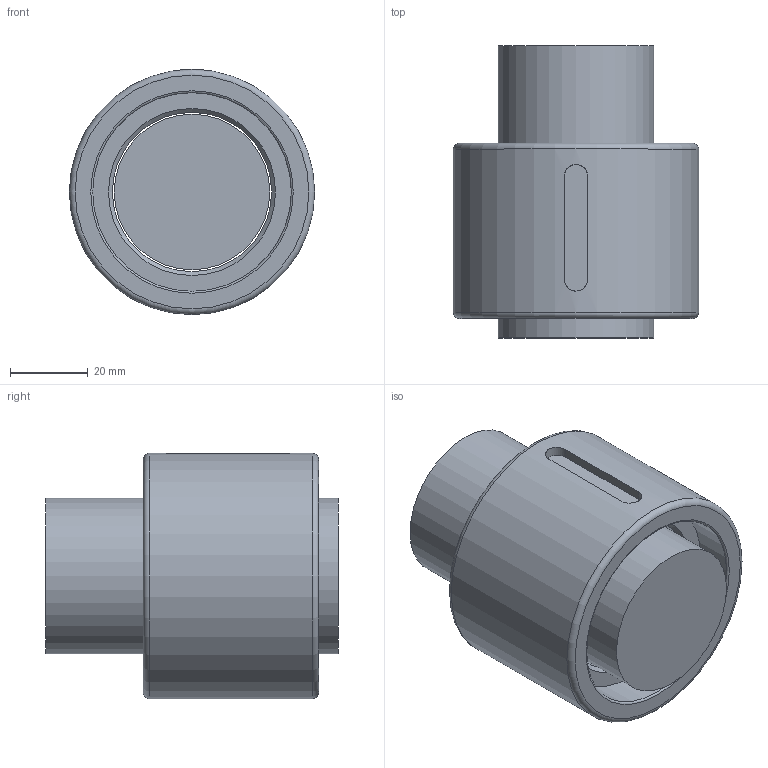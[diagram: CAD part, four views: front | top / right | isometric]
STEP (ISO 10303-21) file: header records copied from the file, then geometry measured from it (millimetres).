
FILE_DESCRIPTION(/* description */ (''),/* implementation_level */ '2;1');
FILE_NAME(/* name */ '4005.prt.step',/* time_stamp */ '2008-12-05T16:34:31+08:00',/* author */ (''),/* organization */ (''),/* preprocessor_version */ 'ST-DEVELOPER v11',/* originating_system */ 'SIEMENS UGS NX 6.0',/* authorisation */ '');
FILE_SCHEMA (('AUTOMOTIVE_DESIGN { 1 0 10303 214 1 1 1 1 }'));
Length unit declared in the file: millimetre
Products named in the file (1): 4005
Bounding box: 63 x 75 x 63 mm (x, y, z)
Volume: 159790.1 mm3; surface area: 30547 mm2
Topology: 2 solids, 2 shells, 22 faces, 45 edges, 29 vertices
Faces by surface type: plane 9, cylinder 7, torus 4, cone 2
Full cylindrical faces by diameter (mm): 39.95 x1, 40.9 x1, 51 x2, 63 x1
Entity records: 568 total; most frequent: CARTESIAN_POINT 135, DIRECTION 90, ORIENTED_EDGE 56, AXIS2_PLACEMENT_3D 41, EDGE_LOOP 38, FACE_BOUND 31, EDGE_CURVE 28, VERTEX_POINT 24
